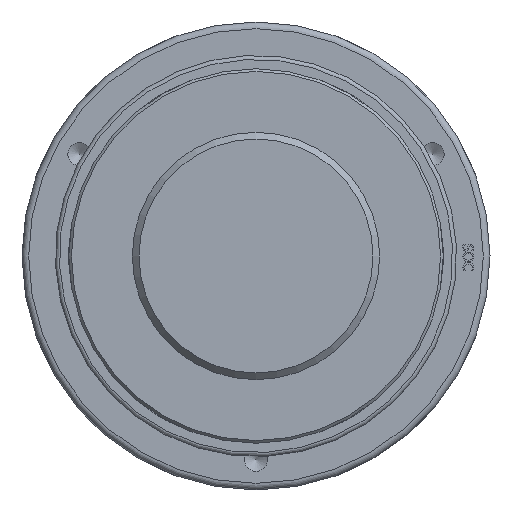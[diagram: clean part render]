
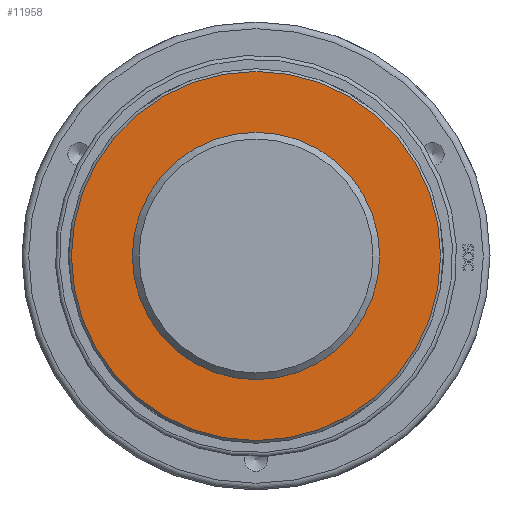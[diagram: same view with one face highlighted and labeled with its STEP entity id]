
A CAD part, front view. The second image highlights one B-rep face of the part: STEP entity #11958.
In plain terms, the highlighted planar face has unit normal (0, -1, 0) as drawn and (0, 1, 0) by its records, which use the part's own axes.
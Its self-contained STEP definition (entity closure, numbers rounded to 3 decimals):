
#90=CIRCLE('',#12587,138.);
#92=CIRCLE('',#12591,89.253);
#169=FACE_BOUND('',#2273,.T.);
#1550=FACE_OUTER_BOUND('',#2272,.T.);
#2272=EDGE_LOOP('',(#9484));
#2273=EDGE_LOOP('',(#9485));
#5372=VERTEX_POINT('',#18278);
#5386=VERTEX_POINT('',#18518);
#6853=EDGE_CURVE('',#5372,#5372,#90,.T.);
#6867=EDGE_CURVE('',#5386,#5386,#92,.T.);
#9484=ORIENTED_EDGE('',*,*,#6853,.F.);
#9485=ORIENTED_EDGE('',*,*,#6867,.T.);
#11499=PLANE('',#12590);
#11958=ADVANCED_FACE('',(#1550,#169),#11499,.T.);
#12587=AXIS2_PLACEMENT_3D('',#18279,#13718,#13719);
#12590=AXIS2_PLACEMENT_3D('',#18517,#13724,#13725);
#12591=AXIS2_PLACEMENT_3D('',#18519,#13726,#13727);
#13718=DIRECTION('center_axis',(0.,-1.,0.));
#13719=DIRECTION('ref_axis',(1.,0.,0.));
#13724=DIRECTION('center_axis',(0.,1.,0.));
#13725=DIRECTION('ref_axis',(0.,0.,1.));
#13726=DIRECTION('center_axis',(0.,-1.,0.));
#13727=DIRECTION('ref_axis',(1.,0.,0.));
#18278=CARTESIAN_POINT('',(-138.,92.5,0.));
#18279=CARTESIAN_POINT('Origin',(0.,92.5,0.));
#18517=CARTESIAN_POINT('Origin',(0.,92.5,0.));
#18518=CARTESIAN_POINT('',(-89.253,92.5,0.));
#18519=CARTESIAN_POINT('Origin',(0.,92.5,0.));
